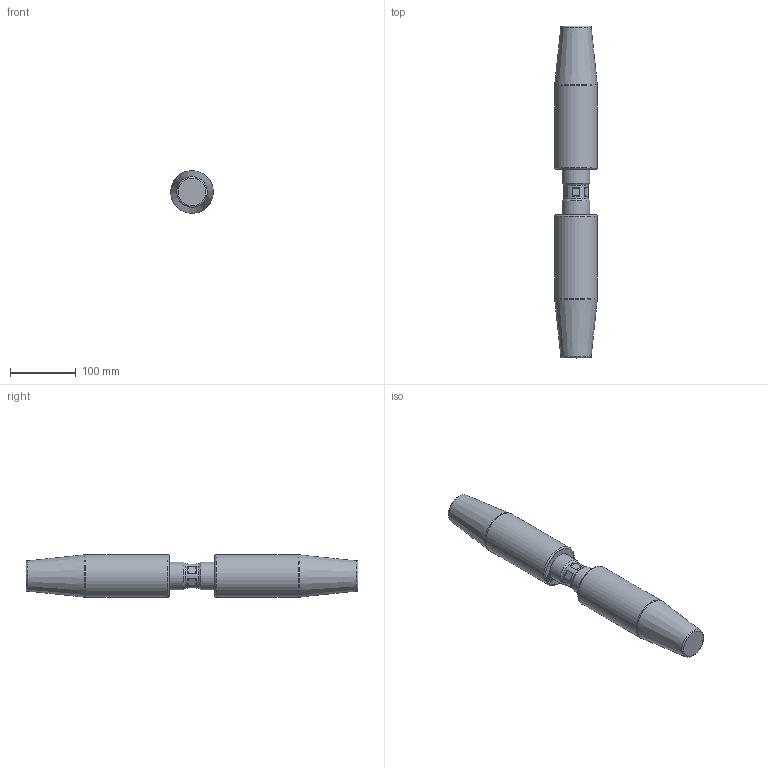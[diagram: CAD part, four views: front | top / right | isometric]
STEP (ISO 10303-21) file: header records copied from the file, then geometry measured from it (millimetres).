
FILE_DESCRIPTION(/* description */ (''),/* implementation_level */ '2;1');
FILE_NAME(/* name */ 'D:\Clienti\Redaelli (inventor)\CYA\STEP\Arrangement\CYA020 52 061 2.stp',/* time_stamp */ '2021-05-09T10:01:29+02:00',/* author */ ('fabri'),/* organization */ (''),/* preprocessor_version */ 'ST-DEVELOPER v16.13',/* originating_system */ 'Autodesk Inventor 2018',/* authorisation */ '');
FILE_SCHEMA (('AUTOMOTIVE_DESIGN { 1 0 10303 214 3 1 1 }'));
Length unit declared in the file: millimetre
Products named in the file (4): CYA012-54-062-0; TBF012-12-012-1; TBF012-13-012-0; TBF012-13-012-0_1
Assembly tree (3 placements, depth 2):
  CYA012-54-062-0
    TBF012-12-012-1
    TBF012-13-012-0
    TBF012-13-012-0_1
Bounding box: 64.96 x 506 x 64.96 mm (x, y, z)
Volume: 1586069.3 mm3; surface area: 126290.4 mm2
Topology: 3 solids, 3 shells, 475 faces, 1283 edges, 856 vertices
Faces by surface type: bspline 261, plane 185, cylinder 19, cone 6, torus 4
Full cylindrical faces by diameter (mm): 38 x1, 42 x2, 43 x2, 65 x2
Entity records: 16529 total; most frequent: CARTESIAN_POINT 6335, ORIENTED_EDGE 2528, EDGE_CURVE 1264, DIRECTION 1200, VERTEX_POINT 854, LINE 682, VECTOR 682, B_SPLINE_CURVE_WITH_KNOTS 542
